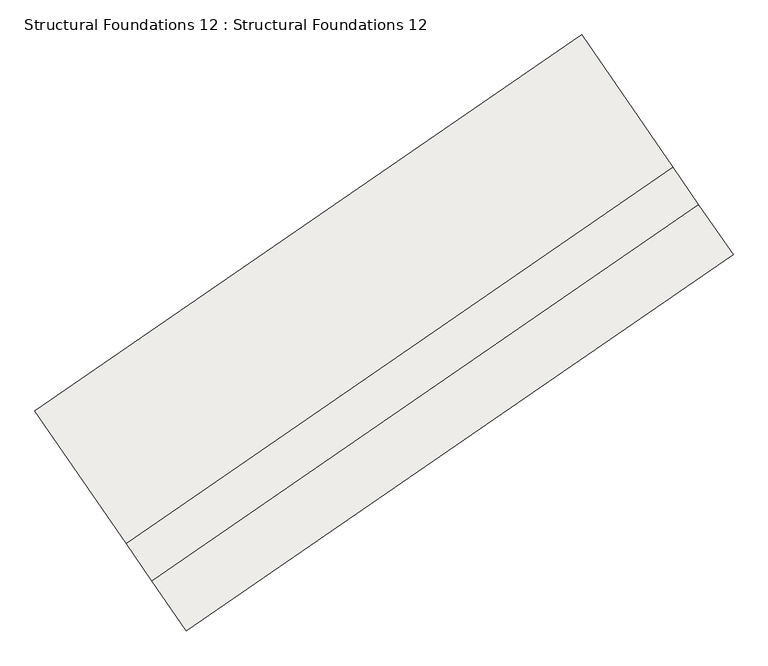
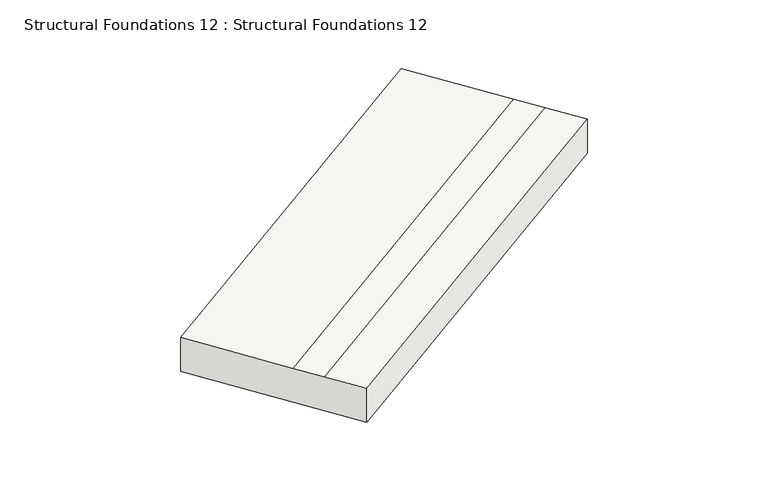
"""IFC4 building model written with IfcOpenShell, lengths in millimetres: slab geometry, Structural Foundations 12 : Structural Foundations 12."""

from ifc_helpers import new_model, si_unit, origin, place, context, project, spatial, faceted_brep, source, transform, mapped, element, save


def structural_foundations_12_structural_foundations_12_0d9ade29(model_context):
    return source(origin(), model_context, "Body", "Brep", [
        faceted_brep([(-340623.2253881, -435742.0560965, 633889.0), (-340623.2253881, -435742.0560965, 634589.0), (-339429.1252802, -437475.5929245, 634588.9999997), (-339091.6005474, -437965.5950197, 634588.9999996), (-338637.7857792, -438624.4213682, 634588.9999995), (-338637.7857792, -438624.4213682, 633888.9999995), (-347787.9619205, -440677.2916959, 633815.769512), (-345802.5223116, -443559.6569676, 633815.7695115), (-345802.5223116, -443559.6569676, 634515.7695115), (-346256.3370797, -442900.8306191, 634515.7695116), (-346593.8618126, -442410.828524, 634515.7695117), (-347787.9619205, -440677.2916959, 634515.769512)], [[[0, 1, 2, 3, 4, 5]], [[6, 7, 8, 9, 10, 11]], [[6, 11, 1, 0]], [[11, 10, 2, 1]], [[10, 9, 3, 2]], [[9, 8, 4, 3]], [[8, 7, 5, 4]], [[7, 6, 0, 5]]]),
    ])


if __name__ == "__main__":
    model = new_model("IFC4")
    model_context = context("Model", 3, world=origin())
    ifc_project = project(units=[si_unit("LENGTHUNIT", "METRE", prefix="MILLI")], contexts=[model_context])
    site = spatial("IfcSite", under=ifc_project)
    building = spatial("IfcBuilding", under=site)
    placement = place(None, origin())
    structural_foundations_12_structural_foundations_12_shape = structural_foundations_12_structural_foundations_12_0d9ade29(model_context)
    element("IfcSlab", 1, ObjectType="Structural Foundations 12 : Structural Foundations 12", at=placement, inside=building, context=model_context, shape_type="MappedRepresentation", body=[
        mapped(structural_foundations_12_structural_foundations_12_shape, transform((0.0, 0.0, 0.0), x_axis=(1.0, 0.0, 0.0), y_axis=(0.0, 1.0, 0.0), z_axis=(0.0, 0.0, 1.0))),
    ])
    save(model, "model.ifc")
